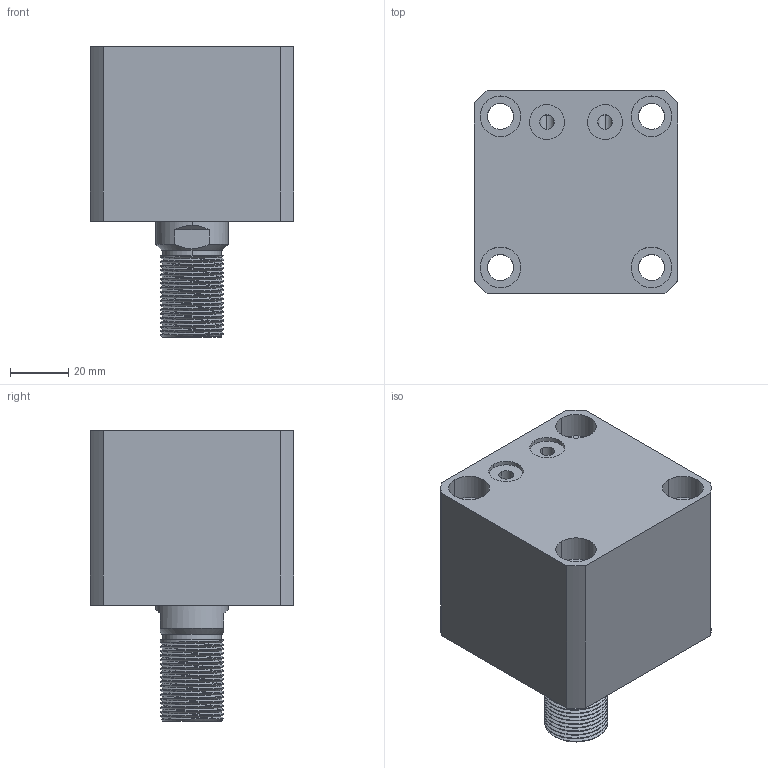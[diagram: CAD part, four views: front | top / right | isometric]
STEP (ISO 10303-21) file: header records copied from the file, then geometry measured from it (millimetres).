
FILE_DESCRIPTION (( 'STEP AP214' ), '1' );
FILE_NAME ('chtb-sdmb40x5w_asm.STEP', '2018-06-07T01:45:49', ( 'Windows' ), ( 'Microsoft' ), 'SwSTEP 2.0', 'SolidWorks 2015', '' );
FILE_SCHEMA (( 'AUTOMOTIVE_DESIGN' ));
Length unit declared in the file: millimetre
Products named in the file (4): CHTB-SD40X5WHSG; CHTB-SD40QG; chtb-sdmb40x5w_asm; CHTB-SDMB40X5NBT
Assembly tree (3 placements, depth 2):
  chtb-sdmb40x5w_asm
    CHTB-SD40QG
    CHTB-SD40X5WHSG
    CHTB-SDMB40X5NBT
Bounding box: 70 x 70 x 100 mm (x, y, z)
Volume: 276908.3 mm3; surface area: 63957 mm2
Topology: 3 solids, 4 shells, 201 faces, 539 edges, 359 vertices
Faces by surface type: cylinder 122, plane 38, bspline 16, torus 14, cone 11
Entity records: 13455 total; most frequent: CARTESIAN_POINT 8586, ORIENTED_EDGE 1066, DIRECTION 904, EDGE_CURVE 533, AXIS2_PLACEMENT_3D 374, VERTEX_POINT 359, EDGE_LOOP 238, ADVANCED_FACE 201
